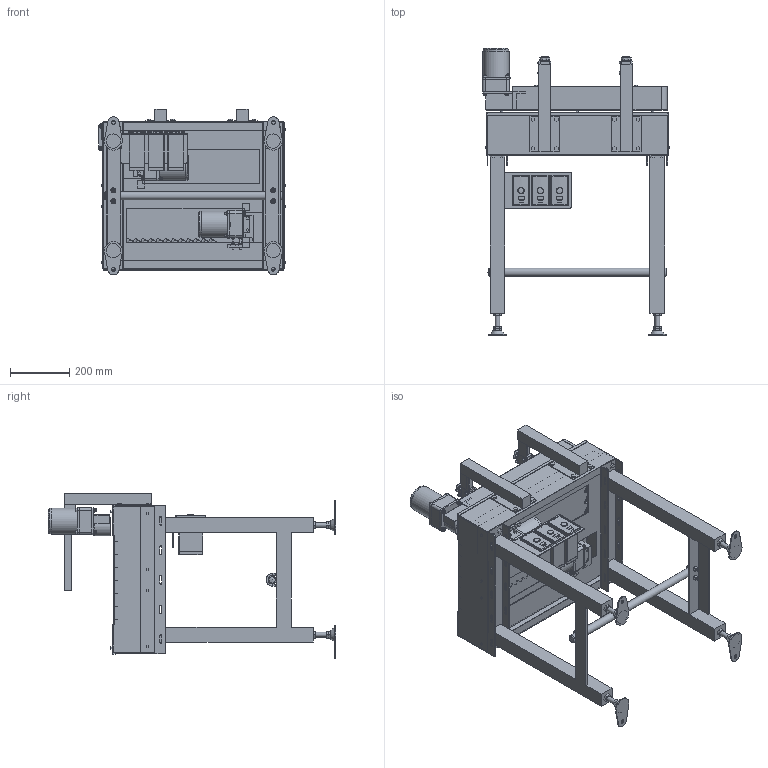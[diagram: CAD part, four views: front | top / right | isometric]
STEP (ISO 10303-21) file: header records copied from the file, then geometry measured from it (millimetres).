
FILE_DESCRIPTION (( 'STEP AP214' ), '1' );
FILE_NAME ('SGA-300-L-A.STEP', '2022-04-12T01:44:17', ( '' ), ( '' ), 'SwSTEP 2.0', 'SolidWorks 2017', '' );
FILE_SCHEMA (( 'AUTOMOTIVE_DESIGN' ));
Length unit declared in the file: millimetre
Products named in the file (18): SK-34-WH; SWD-SGA-S-徊霓娃詭x帩; SWD-SGA-S-原動部(勝手違い); SWD-SGA-S-狠嫩白(彑庤堘偄); VFD001L21A_WEB図; SWD-SGA-S-原動ｶﾊﾞｰ(勝手違い); SWD-SGA-S-ｺﾝﾄﾛｰﾗﾌﾞﾗｹｯﾄ(勝手違い); SWD-SGA-S-ﾛｰﾗ部(勝手違い)_300幅; SWD-AJ-020(75mm); SWD-SGA-S-ﾍﾞｰｽﾌﾚｰﾑ(勝手違い)_300幅; SWD-SGA-衛動葀杺_590; SGA-300-L-A; SWD-UBM540-403-E2+5GN3-18K_t4; SWD-SGA-S-ｻｲﾄﾞﾍﾞﾔ(勝手違い)_300幅; SWD-U-010 Assy_固定板t6; SWD-SGA-S-ﾃｰｸｱｯﾌﾟ(勝手違い); SWD-UBM540-403-E2+5GN3-18K; SWD-SGA-S-脚_300幅
Assembly tree (27 placements, depth 3):
  SGA-300-L-A
    SWD-SGA-S-ﾍﾞｰｽﾌﾚｰﾑ(勝手違い)_300幅
    SWD-SGA-S-ﾛｰﾗ部(勝手違い)_300幅
    SWD-SGA-S-脚_300幅  x2
    SWD-AJ-020(75mm)  x4
    SWD-U-010 Assy_固定板t6  x2
    SWD-SGA-衛動葀杺_590
    SWD-SGA-S-原動部(勝手違い)  x2
      SWD-UBM540-403-E2+5GN3-18K_t4
      SWD-SGA-S-原動ｶﾊﾞｰ(勝手違い)
      SWD-SGA-S-ﾃｰｸｱｯﾌﾟ(勝手違い)
    SWD-SGA-S-狠嫩白(彑庤堘偄)
      SWD-SGA-S-ｺﾝﾄﾛｰﾗﾌﾞﾗｹｯﾄ(勝手違い)
      VFD001L21A_WEB図  x3
    SWD-SGA-S-徊霓娃詭x帩  x2
    SK-34-WH  x2
    SWD-SGA-S-ｻｲﾄﾞﾍﾞﾔ(勝手違い)_300幅
    SWD-UBM540-403-E2+5GN3-18K
Bounding box: 630.8 x 969.4 x 560 mm (x, y, z)
Volume: 19996836.2 mm3; surface area: 4143345.2 mm2
Topology: 81 solids, 82 shells, 2566 faces, 6349 edges, 4101 vertices
Faces by surface type: plane 1759, cylinder 525, cone 161, bspline 64, torus 34, sphere 23
Full cylindrical faces by diameter (mm): 2 x3, 4.5 x6, 5 x14, 5.5 x3, 6 x34, 6.5 x24, 6.6 x12, 7 x4, 8 x10, 8.49 x3, 9 x8, 10 x12, 10.5 x1, 11.5 x2, 12 x3, 12.2 x2, 12.5 x12, 13 x4, 16 x10, 17 x4, 20 x1, 22 x1, 27.2 x1, 28 x2, 36 x3, 40 x4, 50 x2, 83 x3, 84 x3, 86.3 x3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
Entity records: 56567 total; most frequent: CARTESIAN_POINT 10215, ORIENTED_EDGE 7882, DIRECTION 7834, EDGE_CURVE 3941, VECTOR 2978, LINE 2978, VERTEX_POINT 2671, AXIS2_PLACEMENT_3D 2428
